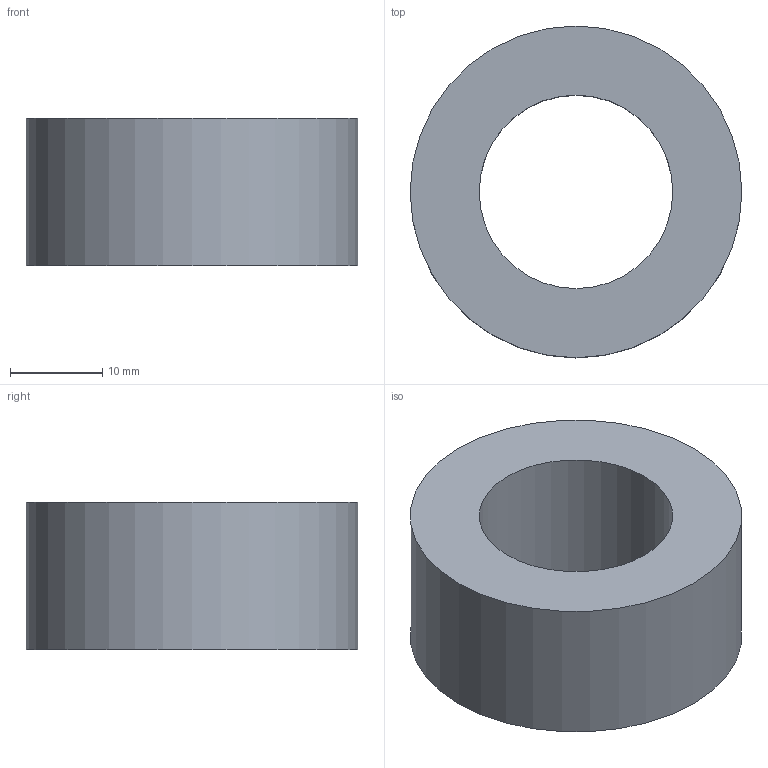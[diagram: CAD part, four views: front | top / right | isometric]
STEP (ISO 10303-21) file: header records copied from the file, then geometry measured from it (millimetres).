
FILE_DESCRIPTION(('Open CASCADE Model'),'2;1');
FILE_NAME('Open CASCADE Shape Model','2026-10-15T15:10:05',('Author'),( 'Open CASCADE'),'Open CASCADE STEP processor 8.0','Open CASCADE 8.0' ,'Unknown');
FILE_SCHEMA(('AUTOMOTIVE_DESIGN { 1 0 10303 214 1 1 1 1 }'));
Length unit declared in the file: millimetre
Products named in the file (1): TC16_TUERCA_M20_D36_ID21_H16_REF 154
Bounding box: 36 x 36 x 16 mm (x, y, z)
Volume: 10744.2 mm3; surface area: 4208.2 mm2
Topology: 1 solids, 1 shells, 4 faces, 6 edges, 4 vertices
Faces by surface type: cylinder 2, plane 2
Full cylindrical faces by diameter (mm): 21 x1, 36 x1
Entity records: 186 total; most frequent: DIRECTION 32, CARTESIAN_POINT 27, ORIENTED_EDGE 12, PCURVE 12, DEFINITIONAL_REPRESENTATION 12, LINE 10, VECTOR 10, AXIS2_PLACEMENT_3D 9
